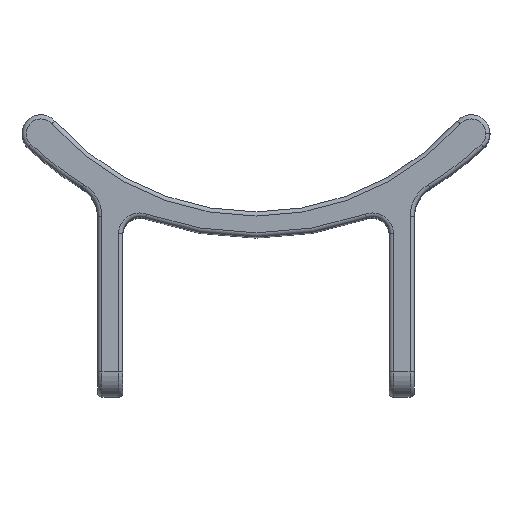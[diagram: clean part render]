
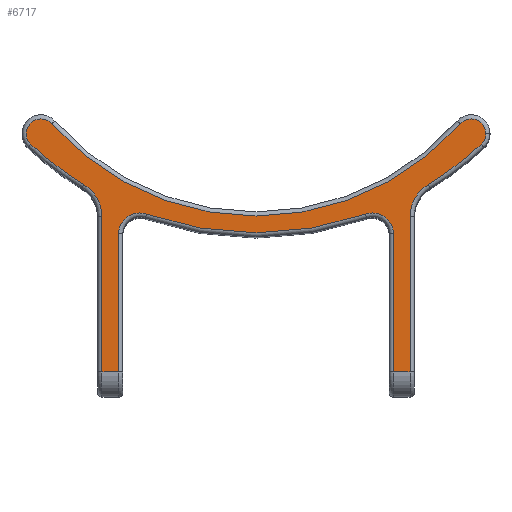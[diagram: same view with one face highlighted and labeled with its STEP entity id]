
A CAD part, top view. The second image highlights one B-rep face of the part: STEP entity #6717.
In plain terms, the highlighted planar face has unit normal (0, 0, 1).
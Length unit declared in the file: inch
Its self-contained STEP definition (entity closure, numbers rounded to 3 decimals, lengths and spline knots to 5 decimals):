
#15 = AXIS2_PLACEMENT_3D ( 'NONE', #2340, #6966, #2401 ) ;
#37 = VERTEX_POINT ( 'NONE', #7156 ) ;
#81 = LINE ( 'NONE', #7826, #2470 ) ;
#99 = CARTESIAN_POINT ( 'NONE',  ( 1.52344, 0.65645, 2.5 ) ) ;
#130 = EDGE_LOOP ( 'NONE', ( #2420, #7489, #1458, #5191, #6350, #4793, #7566, #7942, #2308, #1121, #5897, #7025, #7265, #1497, #1593, #2046, #4041 ) ) ;
#185 = CIRCLE ( 'NONE', #3125, 2.46875 ) ;
#245 = VERTEX_POINT ( 'NONE', #1954 ) ;
#254 = FACE_OUTER_BOUND ( 'NONE', #130, .T. ) ;
#291 = VERTEX_POINT ( 'NONE', #3419 ) ;
#364 = VECTOR ( 'NONE', #4935, 39.37008 ) ;
#386 = DIRECTION ( 'NONE',  ( 0., 0., 1. ) ) ;
#426 = AXIS2_PLACEMENT_3D ( 'NONE', #6083, #5524, #1478 ) ;
#552 = VECTOR ( 'NONE', #6772, 39.37008 ) ;
#714 = AXIS2_PLACEMENT_3D ( 'NONE', #3789, #3057, #6403 ) ;
#735 = DIRECTION ( 'NONE',  ( 1., 0., 0. ) ) ;
#766 = VECTOR ( 'NONE', #8328, 39.37008 ) ;
#804 = CARTESIAN_POINT ( 'NONE',  ( 0., 2.3125, 2.5 ) ) ;
#808 = AXIS2_PLACEMENT_3D ( 'NONE', #6128, #877, #8115 ) ;
#857 = DIRECTION ( 'NONE',  ( 0., 0., 1. ) ) ;
#877 = DIRECTION ( 'NONE',  ( 0., 0., -1. ) ) ;
#973 = EDGE_CURVE ( 'NONE', #37, #5015, #1723, .T. ) ;
#1023 = CARTESIAN_POINT ( 'NONE',  ( 1.14985, -1.195, 2.5 ) ) ;
#1101 = VECTOR ( 'NONE', #2257, 39.37008 ) ;
#1121 = ORIENTED_EDGE ( 'NONE', *, *, #973, .T. ) ;
#1364 = CARTESIAN_POINT ( 'NONE',  ( 1.68018, 0.50371, 2.5 ) ) ;
#1458 = ORIENTED_EDGE ( 'NONE', *, *, #5173, .T. ) ;
#1467 = EDGE_CURVE ( 'NONE', #4653, #7521, #1505, .T. ) ;
#1478 = DIRECTION ( 'NONE',  ( 1., 0., 0. ) ) ;
#1497 = ORIENTED_EDGE ( 'NONE', *, *, #5423, .T. ) ;
#1505 = CIRCLE ( 'NONE', #3608, 0.10956 ) ;
#1518 = AXIS2_PLACEMENT_3D ( 'NONE', #6704, #6123, #3394 ) ;
#1593 = ORIENTED_EDGE ( 'NONE', *, *, #4324, .T. ) ;
#1714 = CARTESIAN_POINT ( 'NONE',  ( -1.14985, -1.195, 2.5 ) ) ;
#1723 = CIRCLE ( 'NONE', #4108, 0.28125 ) ;
#1760 = DIRECTION ( 'NONE',  ( 0., 0., 1. ) ) ;
#1841 = DIRECTION ( 'NONE',  ( 1., 0., 0. ) ) ;
#1905 = LINE ( 'NONE', #3586, #364 ) ;
#1954 = CARTESIAN_POINT ( 'NONE',  ( 1.14985, -0.03579, 2.5 ) ) ;
#1987 = CARTESIAN_POINT ( 'NONE',  ( -1.14985, -0.03579, 2.5 ) ) ;
#1991 = CARTESIAN_POINT ( 'NONE',  ( 1.02485, -1.195, 2.5 ) ) ;
#2020 = CIRCLE ( 'NONE', #15, 0.10956 ) ;
#2042 = DIRECTION ( 'NONE',  ( 0., 0., -1. ) ) ;
#2046 = ORIENTED_EDGE ( 'NONE', *, *, #6561, .T. ) ;
#2111 = CIRCLE ( 'NONE', #426, 0.15625 ) ;
#2129 = CARTESIAN_POINT ( 'NONE',  ( 1.71518, 0.58398, 2.5 ) ) ;
#2257 = DIRECTION ( 'NONE',  ( 1., 0., 0. ) ) ;
#2285 = CARTESIAN_POINT ( 'NONE',  ( -1.4311, -1.195, 2.5 ) ) ;
#2308 = ORIENTED_EDGE ( 'NONE', *, *, #7920, .T. ) ;
#2324 = DIRECTION ( 'NONE',  ( 1., 0., 0. ) ) ;
#2340 = CARTESIAN_POINT ( 'NONE',  ( 1.60561, 0.58398, 2.5 ) ) ;
#2401 = DIRECTION ( 'NONE',  ( 1., 0., 0. ) ) ;
#2420 = ORIENTED_EDGE ( 'NONE', *, *, #7081, .T. ) ;
#2429 = VERTEX_POINT ( 'NONE', #2948 ) ;
#2431 = AXIS2_PLACEMENT_3D ( 'NONE', #3613, #386, #7569 ) ;
#2470 = VECTOR ( 'NONE', #6285, 39.37008 ) ;
#2526 = CIRCLE ( 'NONE', #7207, 2.46875 ) ;
#2664 = DIRECTION ( 'NONE',  ( 0., 0., 1. ) ) ;
#2678 = VERTEX_POINT ( 'NONE', #1364 ) ;
#2715 = DIRECTION ( 'NONE',  ( 1., 0., 0. ) ) ;
#2721 = VERTEX_POINT ( 'NONE', #6840 ) ;
#2725 = EDGE_CURVE ( 'NONE', #8294, #2678, #2526, .T. ) ;
#2832 = CARTESIAN_POINT ( 'NONE',  ( 0., 2., 2.5 ) ) ;
#2842 = EDGE_CURVE ( 'NONE', #4282, #2429, #1905, .T. ) ;
#2872 = LINE ( 'NONE', #2285, #1101 ) ;
#2915 = CARTESIAN_POINT ( 'NONE',  ( -1.68018, 0.50371, 2.5 ) ) ;
#2948 = CARTESIAN_POINT ( 'NONE',  ( -1.02485, -0.16463, 2.5 ) ) ;
#3041 = LINE ( 'NONE', #1991, #552 ) ;
#3057 = DIRECTION ( 'NONE',  ( 0., 0., 1. ) ) ;
#3125 = AXIS2_PLACEMENT_3D ( 'NONE', #7654, #1760, #2324 ) ;
#3394 = DIRECTION ( 'NONE',  ( 1., 0., 0. ) ) ;
#3419 = CARTESIAN_POINT ( 'NONE',  ( 0.8169, -0.01718, 2.5 ) ) ;
#3461 = EDGE_CURVE ( 'NONE', #6728, #245, #81, .T. ) ;
#3470 = DIRECTION ( 'NONE',  ( 1., 0., 0. ) ) ;
#3586 = CARTESIAN_POINT ( 'NONE',  ( -1.02485, -0.16463, 2.5 ) ) ;
#3608 = AXIS2_PLACEMENT_3D ( 'NONE', #4022, #2664, #735 ) ;
#3613 = CARTESIAN_POINT ( 'NONE',  ( -1.4311, -0.03579, 2.5 ) ) ;
#3627 = CARTESIAN_POINT ( 'NONE',  ( -1.52344, 0.65645, 2.5 ) ) ;
#3677 = EDGE_CURVE ( 'NONE', #7441, #4653, #7524, .T. ) ;
#3789 = CARTESIAN_POINT ( 'NONE',  ( 0., 2.3125, 2.5 ) ) ;
#3801 = DIRECTION ( 'NONE',  ( 0., 0., -1. ) ) ;
#4022 = CARTESIAN_POINT ( 'NONE',  ( -1.60561, 0.58398, 2.5 ) ) ;
#4041 = ORIENTED_EDGE ( 'NONE', *, *, #8213, .T. ) ;
#4108 = AXIS2_PLACEMENT_3D ( 'NONE', #4416, #3801, #1841 ) ;
#4282 = VERTEX_POINT ( 'NONE', #5752 ) ;
#4324 = EDGE_CURVE ( 'NONE', #5584, #291, #185, .T. ) ;
#4369 = LINE ( 'NONE', #1714, #766 ) ;
#4416 = CARTESIAN_POINT ( 'NONE',  ( -1.4311, -0.03579, 2.5 ) ) ;
#4653 = VERTEX_POINT ( 'NONE', #3627 ) ;
#4781 = EDGE_CURVE ( 'NONE', #8553, #7441, #6080, .T. ) ;
#4793 = ORIENTED_EDGE ( 'NONE', *, *, #4781, .T. ) ;
#4935 = DIRECTION ( 'NONE',  ( 0., 1., 0. ) ) ;
#4984 = PLANE ( 'NONE',  #2431 ) ;
#5015 = VERTEX_POINT ( 'NONE', #1987 ) ;
#5044 = CIRCLE ( 'NONE', #1518, 0.15625 ) ;
#5071 = DIRECTION ( 'NONE',  ( 1., 0., 0. ) ) ;
#5144 = CIRCLE ( 'NONE', #808, 0.28125 ) ;
#5149 = EDGE_CURVE ( 'NONE', #8168, #4282, #2872, .T. ) ;
#5173 = EDGE_CURVE ( 'NONE', #245, #8294, #5144, .T. ) ;
#5191 = ORIENTED_EDGE ( 'NONE', *, *, #2725, .T. ) ;
#5423 = EDGE_CURVE ( 'NONE', #2429, #5584, #5044, .T. ) ;
#5524 = DIRECTION ( 'NONE',  ( 0., 0., -1. ) ) ;
#5546 = CARTESIAN_POINT ( 'NONE',  ( 1.28474, 0.20438, 2.5 ) ) ;
#5584 = VERTEX_POINT ( 'NONE', #5627 ) ;
#5608 = EDGE_CURVE ( 'NONE', #2678, #8553, #2020, .T. ) ;
#5627 = CARTESIAN_POINT ( 'NONE',  ( -0.8169, -0.01718, 2.5 ) ) ;
#5640 = CARTESIAN_POINT ( 'NONE',  ( -1.4311, -1.195, 2.5 ) ) ;
#5752 = CARTESIAN_POINT ( 'NONE',  ( -1.02485, -1.195, 2.5 ) ) ;
#5886 = DIRECTION ( 'NONE',  ( 0., 0., 1. ) ) ;
#5897 = ORIENTED_EDGE ( 'NONE', *, *, #7933, .T. ) ;
#5913 = DIRECTION ( 'NONE',  ( 1., 0., 0. ) ) ;
#5996 = AXIS2_PLACEMENT_3D ( 'NONE', #2832, #2042, #2715 ) ;
#6009 = AXIS2_PLACEMENT_3D ( 'NONE', #7865, #5886, #5913 ) ;
#6080 = CIRCLE ( 'NONE', #6009, 0.10956 ) ;
#6083 = CARTESIAN_POINT ( 'NONE',  ( 0.8686, -0.16463, 2.5 ) ) ;
#6123 = DIRECTION ( 'NONE',  ( 0., 0., -1. ) ) ;
#6128 = CARTESIAN_POINT ( 'NONE',  ( 1.4311, -0.03579, 2.5 ) ) ;
#6285 = DIRECTION ( 'NONE',  ( 0., 1., 0. ) ) ;
#6350 = ORIENTED_EDGE ( 'NONE', *, *, #5608, .T. ) ;
#6403 = DIRECTION ( 'NONE',  ( 1., 0., 0. ) ) ;
#6561 = EDGE_CURVE ( 'NONE', #291, #2721, #2111, .T. ) ;
#6704 = CARTESIAN_POINT ( 'NONE',  ( -0.8686, -0.16463, 2.5 ) ) ;
#6717 = ADVANCED_FACE ( 'NONE', ( #254 ), #4984, .T. ) ;
#6728 = VERTEX_POINT ( 'NONE', #1023 ) ;
#6772 = DIRECTION ( 'NONE',  ( 0., -1., 0. ) ) ;
#6840 = CARTESIAN_POINT ( 'NONE',  ( 1.02485, -0.16463, 2.5 ) ) ;
#6966 = DIRECTION ( 'NONE',  ( 0., 0., 1. ) ) ;
#7025 = ORIENTED_EDGE ( 'NONE', *, *, #5149, .T. ) ;
#7081 = EDGE_CURVE ( 'NONE', #7632, #6728, #7791, .T. ) ;
#7156 = CARTESIAN_POINT ( 'NONE',  ( -1.28474, 0.20438, 2.5 ) ) ;
#7207 = AXIS2_PLACEMENT_3D ( 'NONE', #804, #857, #3470 ) ;
#7265 = ORIENTED_EDGE ( 'NONE', *, *, #2842, .T. ) ;
#7441 = VERTEX_POINT ( 'NONE', #99 ) ;
#7489 = ORIENTED_EDGE ( 'NONE', *, *, #3461, .T. ) ;
#7521 = VERTEX_POINT ( 'NONE', #2915 ) ;
#7524 = CIRCLE ( 'NONE', #5996, 2.03125 ) ;
#7566 = ORIENTED_EDGE ( 'NONE', *, *, #3677, .T. ) ;
#7569 = DIRECTION ( 'NONE',  ( 1., 0., 0. ) ) ;
#7632 = VERTEX_POINT ( 'NONE', #7701 ) ;
#7654 = CARTESIAN_POINT ( 'NONE',  ( 0., 2.3125, 2.5 ) ) ;
#7675 = CIRCLE ( 'NONE', #714, 2.46875 ) ;
#7701 = CARTESIAN_POINT ( 'NONE',  ( 1.02485, -1.195, 2.5 ) ) ;
#7791 = LINE ( 'NONE', #5640, #8316 ) ;
#7826 = CARTESIAN_POINT ( 'NONE',  ( 1.14985, -0.03579, 2.5 ) ) ;
#7865 = CARTESIAN_POINT ( 'NONE',  ( 1.60561, 0.58398, 2.5 ) ) ;
#7920 = EDGE_CURVE ( 'NONE', #7521, #37, #7675, .T. ) ;
#7933 = EDGE_CURVE ( 'NONE', #5015, #8168, #4369, .T. ) ;
#7942 = ORIENTED_EDGE ( 'NONE', *, *, #1467, .T. ) ;
#8115 = DIRECTION ( 'NONE',  ( 1., 0., 0. ) ) ;
#8168 = VERTEX_POINT ( 'NONE', #8575 ) ;
#8213 = EDGE_CURVE ( 'NONE', #2721, #7632, #3041, .T. ) ;
#8294 = VERTEX_POINT ( 'NONE', #5546 ) ;
#8316 = VECTOR ( 'NONE', #5071, 39.37008 ) ;
#8328 = DIRECTION ( 'NONE',  ( 0., -1., 0. ) ) ;
#8553 = VERTEX_POINT ( 'NONE', #2129 ) ;
#8575 = CARTESIAN_POINT ( 'NONE',  ( -1.14985, -1.195, 2.5 ) ) ;
